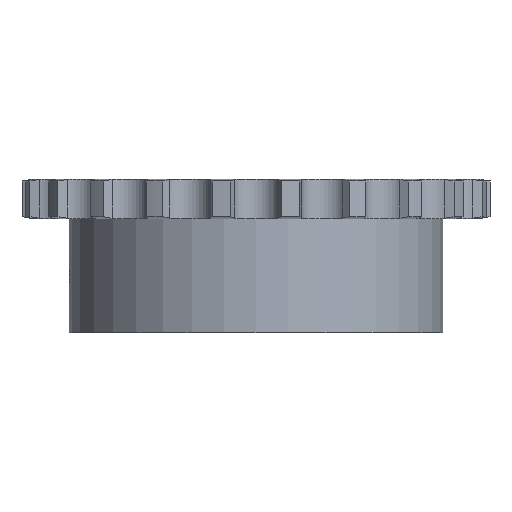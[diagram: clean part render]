
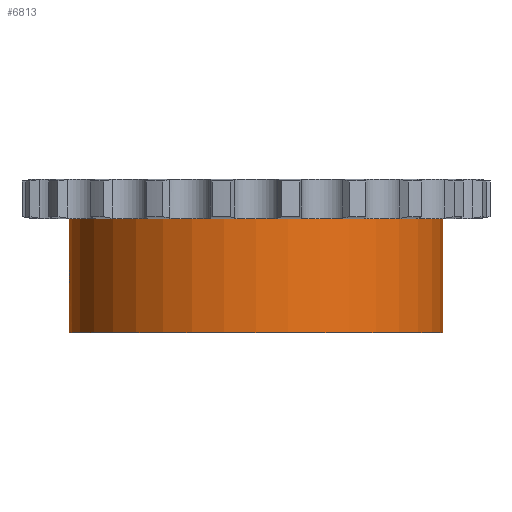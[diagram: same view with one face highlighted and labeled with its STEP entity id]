
A CAD part, front view. The second image highlights one B-rep face of the part: STEP entity #6813.
In plain terms, the highlighted cylindrical face has radius 34 mm (diameter 68 mm), a partial arc.
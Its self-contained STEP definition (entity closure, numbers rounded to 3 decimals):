
#1179=CARTESIAN_POINT('',(0.,0.,-3.6));
#1180=DIRECTION('',(0.,0.,1.));
#1181=DIRECTION('',(-1.,0.,0.));
#1182=AXIS2_PLACEMENT_3D('',#1179,#1180,#1181);
#3405=CARTESIAN_POINT('',(-34.,0.,
-12.));
#3426=DIRECTION('',(0.,0.,1.));
#3427=VECTOR('',#3426,20.8);
#3428=CARTESIAN_POINT('',(34.,0.,-24.4));
#3429=LINE('',#3428,#3427);
#3541=CARTESIAN_POINT('',(-34.,0.,
-12.));
#3542=CARTESIAN_POINT('',(-34.,-0.119,
-12.));
#3543=CARTESIAN_POINT('',(-33.999,-0.352,
-12.02));
#3544=CARTESIAN_POINT('',(-33.993,-0.7,
-12.112));
#3545=CARTESIAN_POINT('',(-33.985,-1.021,
-12.262));
#3546=CARTESIAN_POINT('',(-33.975,-1.31,
-12.464));
#3547=CARTESIAN_POINT('',(-33.964,-1.561,
-12.714));
#3548=CARTESIAN_POINT('',(-33.954,-1.766,
-13.006));
#3549=CARTESIAN_POINT('',(-33.946,-1.914,
-13.328));
#3550=CARTESIAN_POINT('',(-33.941,-2.002,
-13.666));
#3551=CARTESIAN_POINT('',(-33.94,-2.021,
-13.888));
#3552=CARTESIAN_POINT('',(-33.94,-2.021,
-14.));
#3557=DIRECTION('',(0.,0.,1.));
#3558=VECTOR('',#3557,8.4);
#3559=CARTESIAN_POINT('',(-34.,0.,
-12.));
#3560=LINE('',#3559,#3558);
#3564=DIRECTION('',(0.,0.,1.));
#3565=VECTOR('',#3564,8.4);
#3566=CARTESIAN_POINT('',(-34.,0.,-24.4));
#3567=LINE('',#3566,#3565);
#3571=CARTESIAN_POINT('',(-33.94,-2.021,
-14.));
#3572=CARTESIAN_POINT('',(-33.94,-2.021,
-14.111));
#3573=CARTESIAN_POINT('',(-33.941,-2.002,
-14.333));
#3574=CARTESIAN_POINT('',(-33.946,-1.915,
-14.671));
#3575=CARTESIAN_POINT('',(-33.954,-1.767,
-14.992));
#3576=CARTESIAN_POINT('',(-33.964,-1.562,
-15.285));
#3577=CARTESIAN_POINT('',(-33.975,-1.311,
-15.536));
#3578=CARTESIAN_POINT('',(-33.985,-1.021,
-15.738));
#3579=CARTESIAN_POINT('',(-33.993,-0.7,
-15.887));
#3580=CARTESIAN_POINT('',(-33.999,-0.353,
-15.98));
#3581=CARTESIAN_POINT('',(-34.,-0.119,
-16.));
#3582=CARTESIAN_POINT('',(-34.,0.,
-16.));
#3595=CARTESIAN_POINT('',(0.,0.,-24.4));
#3596=DIRECTION('',(0.,0.,-1.));
#3597=DIRECTION('',(1.,0.,0.));
#3598=AXIS2_PLACEMENT_3D('',#3595,#3596,#3597);
#3984=CARTESIAN_POINT('',(-34.,0.,-24.4));
#3985=CARTESIAN_POINT('',(34.,0.,-24.4));
#3986=VERTEX_POINT('',#3984);
#3987=VERTEX_POINT('',#3985);
#3988=CARTESIAN_POINT('',(34.,0.,-3.6));
#3989=VERTEX_POINT('',#3988);
#3990=CARTESIAN_POINT('',(-34.,0.,-3.6));
#3991=VERTEX_POINT('',#3990);
#4215=VERTEX_POINT('',#3405);
#4218=VERTEX_POINT('',#3552);
#4220=VERTEX_POINT('',#3582);
#6797=CARTESIAN_POINT('',(0.,0.,3.6));
#6798=DIRECTION('',(0.,0.,1.));
#6799=DIRECTION('',(1.,0.,0.));
#6800=AXIS2_PLACEMENT_3D('',#6797,#6798,#6799);
#6801=CYLINDRICAL_SURFACE('',#6800,34.);
#6802=ORIENTED_EDGE('',*,*,#6787,.F.);
#6803=ORIENTED_EDGE('',*,*,#6442,.T.);
#6804=ORIENTED_EDGE('',*,*,#5427,.T.);
#6805=ORIENTED_EDGE('',*,*,#6439,.F.);
#6807=ORIENTED_EDGE('',*,*,#6806,.T.);
#6808=ORIENTED_EDGE('',*,*,#6435,.T.);
#6810=ORIENTED_EDGE('',*,*,#6809,.F.);
#6811=EDGE_LOOP('',(#6802,#6803,#6804,#6805,#6807,#6808,#6810));
#6812=FACE_OUTER_BOUND('',#6811,.F.);
#6813=ADVANCED_FACE('',(#6812),#6801,.T.);
#1183=CIRCLE('',#1182,34.);
#3553=B_SPLINE_CURVE_WITH_KNOTS('',3,(#3541,#3542,#3543,#3544,#3545,#3546,#3547,
#3548,#3549,#3550,#3551,#3552),.UNSPECIFIED.,.F.,.F.,(4,1,1,1,1,1,1,1,1,4),
(0.,0.111,0.222,0.333,0.444,
0.556,0.667,0.778,0.889,1.),
.UNSPECIFIED.);
#3583=B_SPLINE_CURVE_WITH_KNOTS('',3,(#3571,#3572,#3573,#3574,#3575,#3576,#3577,
#3578,#3579,#3580,#3581,#3582),.UNSPECIFIED.,.F.,.F.,(4,1,1,1,1,1,1,1,1,4),
(0.,0.111,0.222,0.333,0.444,
0.556,0.667,0.778,0.889,1.),
.UNSPECIFIED.);
#3599=CIRCLE('',#3598,34.);
#5427=EDGE_CURVE('',#3991,#3989,#1183,.T.);
#6435=EDGE_CURVE('',#3986,#4220,#3567,.T.);
#6439=EDGE_CURVE('',#3987,#3989,#3429,.T.);
#6442=EDGE_CURVE('',#4215,#3991,#3560,.T.);
#6787=EDGE_CURVE('',#4215,#4218,#3553,.T.);
#6806=EDGE_CURVE('',#3987,#3986,#3599,.T.);
#6809=EDGE_CURVE('',#4218,#4220,#3583,.T.);
